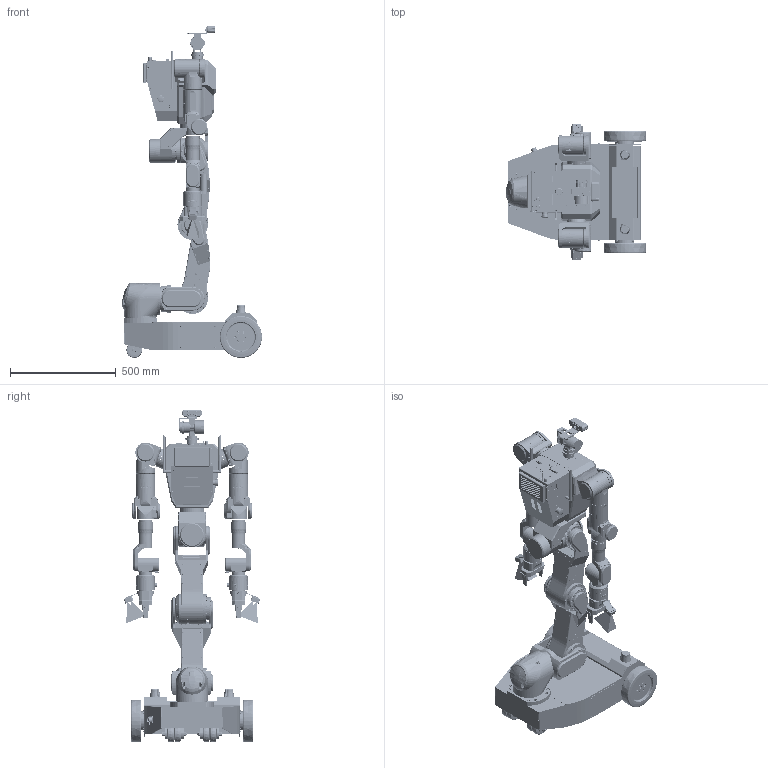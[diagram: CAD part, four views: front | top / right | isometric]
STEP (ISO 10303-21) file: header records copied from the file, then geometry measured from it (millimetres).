
FILE_DESCRIPTION(/* description */ (''),/* implementation_level */ '2;1');
FILE_NAME(/* name */ 'RB-Y1_v1.2_3D_Fast Grip_DD_KCs_260107.stp',/* time_stamp */ '2026-01-08T18:11:57+09:00',/* author */ ('KiWook.H'),/* organization */ (''),/* preprocessor_version */ 'ST-DEVELOPER v20',/* originating_system */ 'Autodesk Inventor 2025',/* authorisation */ '');
FILE_SCHEMA (('AUTOMOTIVE_DESIGN { 1 0 10303 214 3 1 1 }'));
Products named in the file (25): RB-Y1_v1.2_3D_Fast Grip_DD_KCs_260107; 000_Base_v1.2; 001_AR_v1.2; 002_AP_v1.2; 003_KN_v1.2; 004_HP_v1.2; 005_HR_v1.2; 006_HY_v1.2; 007_SP_v1.2; 008_SR_R_v1.2; 009_SY_R_v1.2; 010_EL_R_v1.2; 011_WY1_R_v1.2; 012_WP_R_v1.2; 014_SP_L_v1.2; 015_SR_L_v1.2; 016_SY_L_v1.2; 017_EL_L_v1.2; 018_WY1_L_v1.2; 019_WP_L_v1.2; 020_FTsensor TF_v1.2; 021_Gripper_Fast_v1.2; 022_NY_v1.2; 023_NP_v1.2; 024_ZedXMini_optional_v1.2
Assembly tree (26 placements, depth 2):
  RB-Y1_v1.2_3D_Fast Grip_DD_KCs_260107
    000_Base_v1.2
    001_AR_v1.2
    002_AP_v1.2
    003_KN_v1.2
    004_HP_v1.2
    005_HR_v1.2
    006_HY_v1.2
    007_SP_v1.2
    008_SR_R_v1.2
    009_SY_R_v1.2
    010_EL_R_v1.2
    011_WY1_R_v1.2
    012_WP_R_v1.2
    014_SP_L_v1.2
    015_SR_L_v1.2
    016_SY_L_v1.2
    017_EL_L_v1.2
    018_WY1_L_v1.2
    019_WP_L_v1.2
    020_FTsensor TF_v1.2  x2
    021_Gripper_Fast_v1.2  x2
    022_NY_v1.2
    023_NP_v1.2
    024_ZedXMini_optional_v1.2
Bounding box: 662.62 x 646.07 x 1571.91 mm (x, y, z)
Volume: 75258286 mm3; surface area: 4990372 mm2
Topology: 44 solids, 489 shells, 19759 faces, 50709 edges, 33175 vertices
Faces by surface type: plane 10473, cylinder 5579, cone 2155, torus 941, bspline 536, sphere 75
Full cylindrical faces by diameter (mm): 0.5 x1, 0.55 x1, 0.7 x16, 1 x3, 1.03 x16, 1.2 x1, 1.5 x10, 1.567 x22, 1.6 x13, 1.7 x10, 1.754 x4, 2 x50, 2.013 x8, 2.03 x1, 2.05 x12, 2.2 x7, 2.4 x2, 2.45 x1, 2.459 x113, 2.5 x22, 2.6 x4, 2.693 x12, 2.8 x22, 2.9 x2, 3 x248, 3.1 x26, 3.2 x53, 3.242 x7, 3.3 x40, 3.4 x14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
Entity records: 669591 total; most frequent: CARTESIAN_POINT 207198, ORIENTED_EDGE 93748, DIRECTION 90802, EDGE_CURVE 46890, AXIS2_PLACEMENT_3D 33185, VERTEX_POINT 31052, LINE 24432, VECTOR 24432
